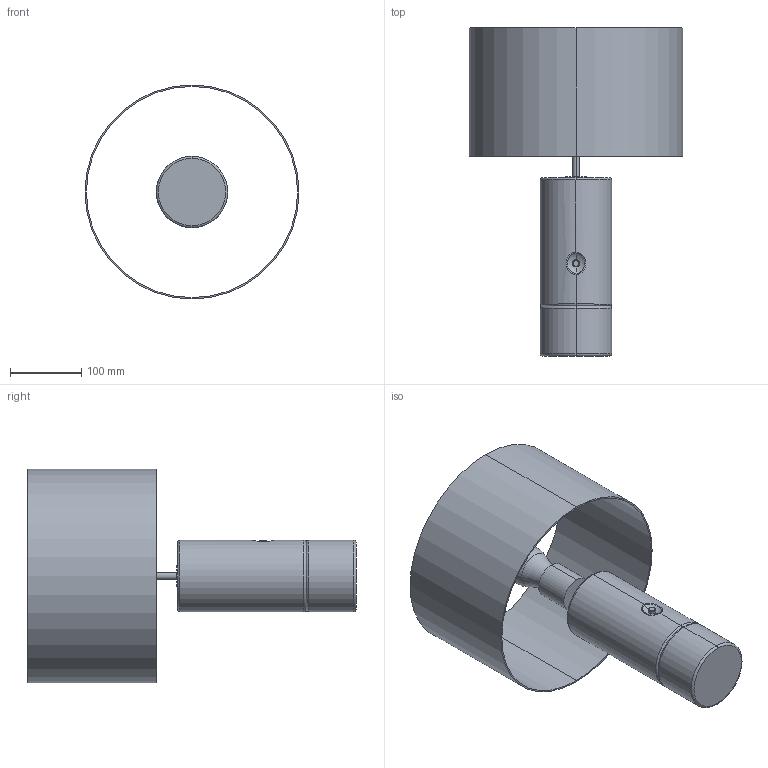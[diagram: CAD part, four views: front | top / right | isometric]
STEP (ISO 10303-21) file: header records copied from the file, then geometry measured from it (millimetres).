
FILE_DESCRIPTION (( 'STEP AP214' ), '1' );
FILE_NAME ('SANO_S1335.STEP', '2024-10-02T09:59:36', ( '' ), ( '' ), 'SwSTEP 2.0', 'SolidWorks 2018', '' );
FILE_SCHEMA (( 'AUTOMOTIVE_DESIGN' ));
Length unit declared in the file: millimetre
Products named in the file (1): SANO_S1335
Bounding box: 300 x 460 x 300 mm (x, y, z)
Volume: 2441583.7 mm3; surface area: 483466.4 mm2
Topology: 8 solids, 8 shells, 55 faces, 105 edges, 65 vertices
Faces by surface type: cylinder 20, plane 15, torus 14, sphere 4, bspline 2
Entity records: 2601 total; most frequent: CARTESIAN_POINT 736, DIRECTION 277, ORIENTED_EDGE 206, AXIS2_PLACEMENT_3D 128, EDGE_CURVE 103, CIRCLE 74, UNCERTAINTY_MEASURE_WITH_UNIT 65, VERTEX_POINT 65
